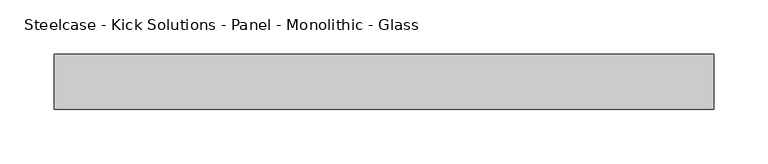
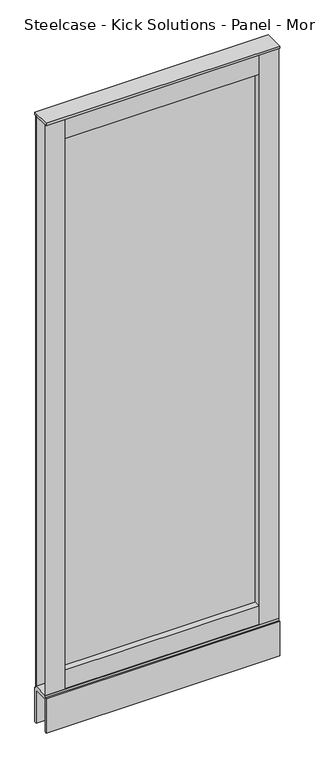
"""IFC4 building model written with IfcOpenShell, lengths in millimetres: furniture geometry, Steelcase - Kick Solutions - Panel - Monolithic - Glass : 66H x 24W."""

from ifc_helpers import new_model, si_unit, frame, origin, place, context, project, spatial, polyline, outline, extrude, source, transform, mapped, element, save


def steelcase_kick_solutions_panel_monolithic_glass_d2fe1d34(model_context):
    return source(origin(), model_context, "Body", "SweptSolid", [
        extrude(outline(polyline([(558.8006661, -5.08), (558.8006661, -45.7200015), (50.8006646, -45.7200015), (50.8006646, -5.08), (558.8006661, -5.08)])), frame((0.0, 0.0, 101.7169049), z_axis=(0.0, 0.0, 1.0), x_axis=(1.0, 0.0, 0.0)), (0.0, 0.0, 1.0), 50.6830951),
        extrude(outline(polyline([(558.8006661, -5.08), (558.8006661, -45.7200015), (50.8006646, -45.7200015), (50.8006646, -5.08), (558.8006661, -5.08)])), frame((0.0, 0.0, 1619.25), z_axis=(0.0, 0.0, 1.0), x_axis=(1.0, 0.0, 0.0)), (0.0, 0.0, 1.0), 57.15),
        extrude(outline(polyline([(50.8006646, -3.1743148), (50.8006646, -47.6243142), (0.0, -47.6243142), (0.0, -45.7200015), (47.7526646, -45.7200015), (47.7526646, -5.08), (0.0, -5.08), (0.0, -3.1743148), (50.8006646, -3.1743148)])), frame((0.0, 0.0, 101.7169049), z_axis=(0.0, 0.0, 1.0), x_axis=(1.0, 0.0, 0.0)), (0.0, 0.0, 1.0), 1574.6830951),
        extrude(outline(polyline([(558.8006661, -3.1743148), (609.6, -3.1743148), (609.6, -5.08), (561.8486661, -5.08), (561.8486661, -45.7200015), (609.6, -45.7200015), (609.6, -47.6243142), (558.8006661, -47.6243142), (558.8006661, -3.1743148)])), frame((0.0, 0.0, 101.7169049), z_axis=(0.0, 0.0, 1.0), x_axis=(1.0, 0.0, 0.0)), (0.0, 0.0, 1.0), 1574.6830951),
        extrude(outline(polyline([(558.8006661, -28.422537), (50.8006646, -28.422537), (50.8006646, -25.4), (558.8006661, -25.4), (558.8006661, -28.422537)])), frame((0.0, 0.0, 152.4), z_axis=(0.0, 0.0, 1.0), x_axis=(1.0, 0.0, 0.0)), (0.0, 0.0, 1.0), 1466.85),
        extrude(outline(polyline([(609.6, 0.0), (609.6, -50.8000015), (0.0, -50.8000015), (0.0, 0.0), (609.6, 0.0)])), frame((0.0, 0.0, 1676.4), z_axis=(0.0, 0.0, 1.0), x_axis=(1.0, 0.0, 0.0)), (0.0, 0.0, 1.0), 6.35),
        extrude(outline(polyline([(0.0, 0.0), (-5.08, 0.0), (-5.08, 90.2869018), (-45.7200015, 90.2869018), (-45.7200015, 0.0), (-50.8000015, 0.0), (-50.8000015, 95.3669018), (-47.6243142, 95.3669018), (-47.6243142, 101.7169049), (-3.1743148, 101.7169049), (-3.1743148, 95.3669018), (0.0, 95.3669018), (0.0, 0.0)])), frame((0.0, 0.0, 0.0), z_axis=(1.0, 0.0, 0.0), x_axis=(0.0, 1.0, 0.0)), (0.0, 0.0, 1.0), 609.6),
    ])


if __name__ == "__main__":
    model = new_model("IFC4")
    model_context = context("Model", 3, world=origin())
    ifc_project = project(units=[si_unit("LENGTHUNIT", "METRE", prefix="MILLI")], contexts=[model_context])
    site = spatial("IfcSite", under=ifc_project)
    building = spatial("IfcBuilding", under=site)
    placement = place(None, origin())
    steelcase_kick_solutions_panel_monolithic_glass_shape = steelcase_kick_solutions_panel_monolithic_glass_d2fe1d34(model_context)
    element("IfcFurniture", 1, ObjectType="Steelcase - Kick Solutions - Panel - Monolithic - Glass : 66H x 24W", at=placement, inside=building, context=model_context, shape_type="MappedRepresentation", body=[
        mapped(steelcase_kick_solutions_panel_monolithic_glass_shape, transform((0.0, 0.0, 0.0), x_axis=(1.0, 0.0, 0.0), y_axis=(0.0, 1.0, 0.0), z_axis=(0.0, 0.0, 1.0))),
    ])
    save(model, "model.ifc")
